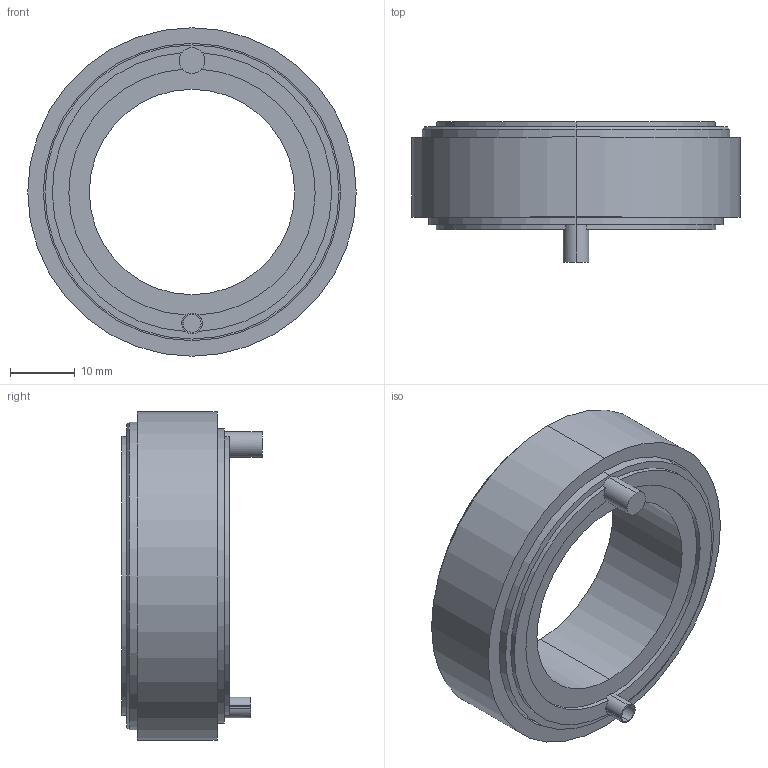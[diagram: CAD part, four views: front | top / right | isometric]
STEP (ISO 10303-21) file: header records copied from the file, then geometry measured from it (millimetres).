
FILE_DESCRIPTION (( 'STEP AP214' ), '1' );
FILE_NAME ('16940-SS1607.STEP', '2024-08-12T14:49:18', ( '' ), ( '' ), 'SwSTEP 2.0', 'SolidWorks 2008', '' );
FILE_SCHEMA (( 'AUTOMOTIVE_DESIGN' ));
Length unit declared in the file: inch
Products named in the file (1): 16940-SS1607
Bounding box: 50.8 x 21.72 x 50.8 mm (x, y, z)
Volume: 14681.8 mm3; surface area: 12241.9 mm2
Topology: 1 solids, 1 shells, 150 faces, 433 edges, 277 vertices
Faces by surface type: cylinder 83, plane 33, torus 32, cone 2
Entity records: 5621 total; most frequent: CARTESIAN_POINT 1737, ORIENTED_EDGE 866, DIRECTION 768, EDGE_CURVE 433, AXIS2_PLACEMENT_3D 312, VERTEX_POINT 277, CIRCLE 161, EDGE_LOOP 160
